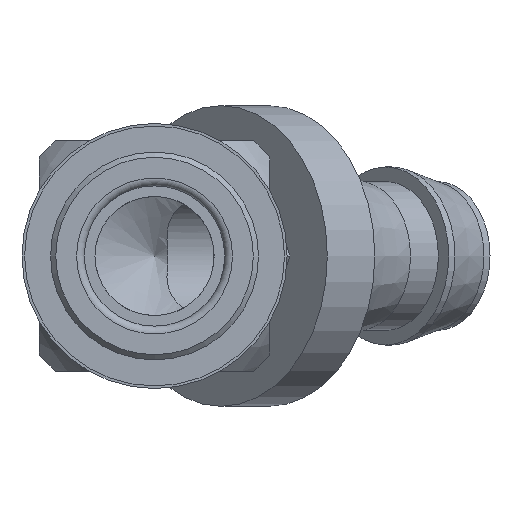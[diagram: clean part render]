
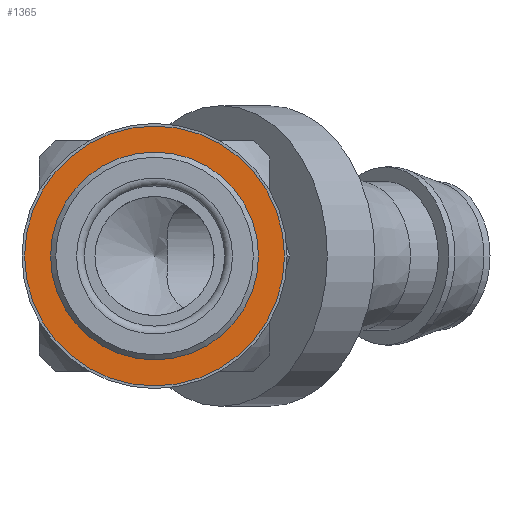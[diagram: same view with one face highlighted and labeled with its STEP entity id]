
A CAD part, left-side view. The second image highlights one B-rep face of the part: STEP entity #1365.
In plain terms, the highlighted planar face has unit normal (-1, 0, 0).
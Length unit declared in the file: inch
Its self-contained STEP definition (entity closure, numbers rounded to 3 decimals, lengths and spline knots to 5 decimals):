
#173=PLANE('',#1537);
#418=ORIENTED_EDGE('',*,*,#785,.F.);
#419=ORIENTED_EDGE('',*,*,#784,.T.);
#784=EDGE_CURVE('',#955,#955,#1052,.T.);
#785=EDGE_CURVE('',#956,#956,#1053,.T.);
#955=VERTEX_POINT('',#2439);
#956=VERTEX_POINT('',#2442);
#1052=CIRCLE('',#1536,0.356);
#1053=CIRCLE('',#1538,0.445);
#1105=EDGE_LOOP('',(#418));
#1106=EDGE_LOOP('',(#419));
#1231=FACE_BOUND('',#1105,.T.);
#1232=FACE_BOUND('',#1106,.T.);
#1365=ADVANCED_FACE('',(#1231,#1232),#173,.F.);
#1536=AXIS2_PLACEMENT_3D('',#2438,#1839,#1840);
#1537=AXIS2_PLACEMENT_3D('',#2440,#1841,#1842);
#1538=AXIS2_PLACEMENT_3D('',#2441,#1843,#1844);
#1839=DIRECTION('',(1.,0.,0.));
#1840=DIRECTION('',(0.,0.,-1.));
#1841=DIRECTION('',(1.,0.,0.));
#1842=DIRECTION('',(0.,0.,-1.));
#1843=DIRECTION('',(1.,0.,0.));
#1844=DIRECTION('',(0.,0.,-1.));
#2438=CARTESIAN_POINT('',(0.,0.,0.));
#2439=CARTESIAN_POINT('',(0.,0.,-0.356));
#2440=CARTESIAN_POINT('',(0.,0.356,0.));
#2441=CARTESIAN_POINT('',(0.,0.,0.));
#2442=CARTESIAN_POINT('',(0.,0.,-0.445));
